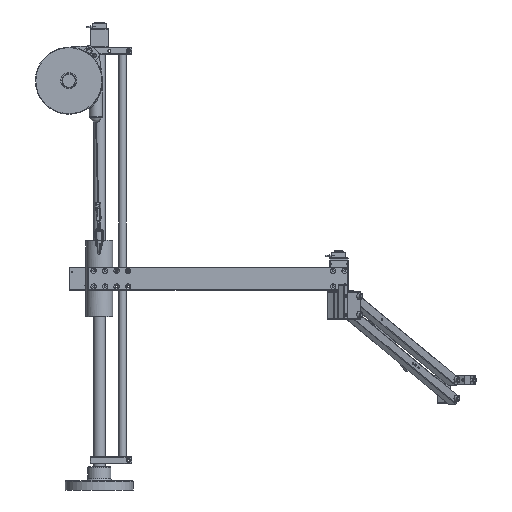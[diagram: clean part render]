
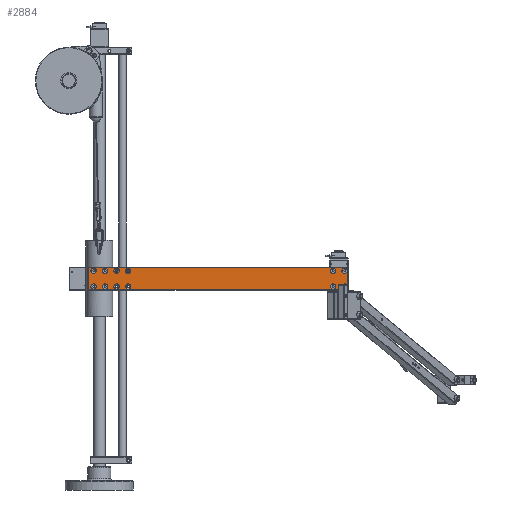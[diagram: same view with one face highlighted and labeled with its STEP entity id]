
A CAD part, left-side view. The second image highlights one B-rep face of the part: STEP entity #2884.
In plain terms, the highlighted planar face has unit normal (-1, 0, 0) as drawn and (0, 0, -1) by its records, which use the part's own axes.
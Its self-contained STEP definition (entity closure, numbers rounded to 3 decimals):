
#2884 = ADVANCED_FACE( '', ( #5816, #5817, #5818, #5819, #5820, #5821, #5822, #5823, #5824, #5825, #5826, #5827, #5828 ), #5829, .F. );
#5816 = FACE_OUTER_BOUND( '', #10247, .T. );
#5817 = FACE_BOUND( '', #10248, .T. );
#5818 = FACE_BOUND( '', #10249, .T. );
#5819 = FACE_BOUND( '', #10250, .T. );
#5820 = FACE_BOUND( '', #10251, .T. );
#5821 = FACE_BOUND( '', #10252, .T. );
#5822 = FACE_BOUND( '', #10253, .T. );
#5823 = FACE_BOUND( '', #10254, .T. );
#5824 = FACE_BOUND( '', #10255, .T. );
#5825 = FACE_BOUND( '', #10256, .T. );
#5826 = FACE_BOUND( '', #10257, .T. );
#5827 = FACE_BOUND( '', #10258, .T. );
#5828 = FACE_BOUND( '', #10259, .T. );
#5829 = PLANE( '', #10260 );
#10247 = EDGE_LOOP( '', ( #15890, #15891, #15892, #15893 ) );
#10248 = EDGE_LOOP( '', ( #15894 ) );
#10249 = EDGE_LOOP( '', ( #15895 ) );
#10250 = EDGE_LOOP( '', ( #15896 ) );
#10251 = EDGE_LOOP( '', ( #15897 ) );
#10252 = EDGE_LOOP( '', ( #15898 ) );
#10253 = EDGE_LOOP( '', ( #15899 ) );
#10254 = EDGE_LOOP( '', ( #15900 ) );
#10255 = EDGE_LOOP( '', ( #15901 ) );
#10256 = EDGE_LOOP( '', ( #15902 ) );
#10257 = EDGE_LOOP( '', ( #15903 ) );
#10258 = EDGE_LOOP( '', ( #15904 ) );
#10259 = EDGE_LOOP( '', ( #15905 ) );
#10260 = AXIS2_PLACEMENT_3D( '', #15906, #15907, #15908 );
#15890 = ORIENTED_EDGE( '', *, *, #23571, .T. );
#15891 = ORIENTED_EDGE( '', *, *, #23199, .T. );
#15892 = ORIENTED_EDGE( '', *, *, #22640, .T. );
#15893 = ORIENTED_EDGE( '', *, *, #23572, .T. );
#15894 = ORIENTED_EDGE( '', *, *, #23573, .T. );
#15895 = ORIENTED_EDGE( '', *, *, #23574, .T. );
#15896 = ORIENTED_EDGE( '', *, *, #23575, .T. );
#15897 = ORIENTED_EDGE( '', *, *, #23264, .T. );
#15898 = ORIENTED_EDGE( '', *, *, #23576, .T. );
#15899 = ORIENTED_EDGE( '', *, *, #23577, .T. );
#15900 = ORIENTED_EDGE( '', *, *, #23578, .T. );
#15901 = ORIENTED_EDGE( '', *, *, #23579, .T. );
#15902 = ORIENTED_EDGE( '', *, *, #23478, .T. );
#15903 = ORIENTED_EDGE( '', *, *, #23580, .T. );
#15904 = ORIENTED_EDGE( '', *, *, #23581, .T. );
#15905 = ORIENTED_EDGE( '', *, *, #23206, .T. );
#15906 = CARTESIAN_POINT( '', ( -71.611, 8.951, -10. ) );
#15907 = DIRECTION( '', ( 0., 0., 1. ) );
#15908 = DIRECTION( '', ( 1., 0., 0. ) );
#22640 = EDGE_CURVE( '', #28122, #28120, #28123, .T. );
#23199 = EDGE_CURVE( '', #28322, #28122, #29050, .T. );
#23206 = EDGE_CURVE( '', #29059, #29059, #29060, .T. );
#23264 = EDGE_CURVE( '', #29158, #29158, #29159, .T. );
#23478 = EDGE_CURVE( '', #29495, #29495, #29496, .T. );
#23571 = EDGE_CURVE( '', #29639, #28322, #29640, .T. );
#23572 = EDGE_CURVE( '', #28120, #29639, #29641, .T. );
#23573 = EDGE_CURVE( '', #29642, #29642, #29643, .T. );
#23574 = EDGE_CURVE( '', #29644, #29644, #29645, .T. );
#23575 = EDGE_CURVE( '', #29646, #29646, #29647, .T. );
#23576 = EDGE_CURVE( '', #29648, #29648, #29649, .T. );
#23577 = EDGE_CURVE( '', #29650, #29650, #29651, .T. );
#23578 = EDGE_CURVE( '', #29652, #29652, #29653, .T. );
#23579 = EDGE_CURVE( '', #29654, #29654, #29655, .T. );
#23580 = EDGE_CURVE( '', #29656, #29656, #29657, .T. );
#23581 = EDGE_CURVE( '', #29658, #29658, #29659, .T. );
#28120 = VERTEX_POINT( '', #33908 );
#28122 = VERTEX_POINT( '', #33911 );
#28123 = LINE( '', #33912, #33913 );
#28322 = VERTEX_POINT( '', #34384 );
#29050 = LINE( '', #35930, #35931 );
#29059 = VERTEX_POINT( '', #35944 );
#29060 = CIRCLE( '', #35945, 5.75 );
#29158 = VERTEX_POINT( '', #36066 );
#29159 = CIRCLE( '', #36067, 5.75 );
#29495 = VERTEX_POINT( '', #36677 );
#29496 = CIRCLE( '', #36678, 5.75 );
#29639 = VERTEX_POINT( '', #36905 );
#29640 = LINE( '', #36906, #36907 );
#29641 = LINE( '', #36908, #36909 );
#29642 = VERTEX_POINT( '', #36910 );
#29643 = CIRCLE( '', #36911, 5.75 );
#29644 = VERTEX_POINT( '', #36912 );
#29645 = CIRCLE( '', #36913, 5.75 );
#29646 = VERTEX_POINT( '', #36914 );
#29647 = CIRCLE( '', #36915, 5.75 );
#29648 = VERTEX_POINT( '', #36916 );
#29649 = CIRCLE( '', #36917, 5.75 );
#29650 = VERTEX_POINT( '', #36918 );
#29651 = CIRCLE( '', #36919, 5.75 );
#29652 = VERTEX_POINT( '', #36920 );
#29653 = CIRCLE( '', #36921, 5.75 );
#29654 = VERTEX_POINT( '', #36922 );
#29655 = CIRCLE( '', #36923, 5.75 );
#29656 = VERTEX_POINT( '', #36924 );
#29657 = CIRCLE( '', #36925, 5.75 );
#29658 = VERTEX_POINT( '', #36926 );
#29659 = CIRCLE( '', #36927, 5.75 );
#33908 = CARTESIAN_POINT( '', ( 492.389, 57.951, -10. ) );
#33911 = CARTESIAN_POINT( '', ( -70.611, 57.951, -10. ) );
#33912 = CARTESIAN_POINT( '', ( 493.389, 57.951, -10. ) );
#33913 = VECTOR( '', #42206, 1000. );
#34384 = CARTESIAN_POINT( '', ( -70.611, 9.951, -10. ) );
#35930 = CARTESIAN_POINT( '', ( -70.611, 58.951, -10. ) );
#35931 = VECTOR( '', #42875, 1000. );
#35944 = CARTESIAN_POINT( '', ( -64.111, 11.201, -10. ) );
#35945 = AXIS2_PLACEMENT_3D( '', #42880, #42881, #42882 );
#36066 = CARTESIAN_POINT( '', ( 430.889, 11.201, -10. ) );
#36067 = AXIS2_PLACEMENT_3D( '', #42969, #42970, #42971 );
#36677 = CARTESIAN_POINT( '', ( -39.111, 11.201, -10. ) );
#36678 = AXIS2_PLACEMENT_3D( '', #43227, #43228, #43229 );
#36905 = CARTESIAN_POINT( '', ( 492.389, 9.951, -10. ) );
#36906 = CARTESIAN_POINT( '', ( -71.611, 9.951, -10. ) );
#36907 = VECTOR( '', #43336, 1000. );
#36908 = CARTESIAN_POINT( '', ( 492.389, 8.951, -10. ) );
#36909 = VECTOR( '', #43337, 1000. );
#36910 = CARTESIAN_POINT( '', ( 405.889, 45.201, -10. ) );
#36911 = AXIS2_PLACEMENT_3D( '', #43338, #43339, #43340 );
#36912 = CARTESIAN_POINT( '', ( 405.889, 11.201, -10. ) );
#36913 = AXIS2_PLACEMENT_3D( '', #43341, #43342, #43343 );
#36914 = CARTESIAN_POINT( '', ( 430.889, 45.201, -10. ) );
#36915 = AXIS2_PLACEMENT_3D( '', #43344, #43345, #43346 );
#36916 = CARTESIAN_POINT( '', ( 455.889, 45.201, -10. ) );
#36917 = AXIS2_PLACEMENT_3D( '', #43347, #43348, #43349 );
#36918 = CARTESIAN_POINT( '', ( 455.889, 11.201, -10. ) );
#36919 = AXIS2_PLACEMENT_3D( '', #43350, #43351, #43352 );
#36920 = CARTESIAN_POINT( '', ( 480.889, 45.201, -10. ) );
#36921 = AXIS2_PLACEMENT_3D( '', #43353, #43354, #43355 );
#36922 = CARTESIAN_POINT( '', ( 480.889, 11.201, -10. ) );
#36923 = AXIS2_PLACEMENT_3D( '', #43356, #43357, #43358 );
#36924 = CARTESIAN_POINT( '', ( -39.111, 45.201, -10. ) );
#36925 = AXIS2_PLACEMENT_3D( '', #43359, #43360, #43361 );
#36926 = CARTESIAN_POINT( '', ( -64.111, 45.201, -10. ) );
#36927 = AXIS2_PLACEMENT_3D( '', #43362, #43363, #43364 );
#42206 = DIRECTION( '', ( 1., 0., 0. ) );
#42875 = DIRECTION( '', ( 0., 1., 0. ) );
#42880 = CARTESIAN_POINT( '', ( -64.111, 16.951, -10. ) );
#42881 = DIRECTION( '', ( 0., 0., 1. ) );
#42882 = DIRECTION( '', ( 0., -1., 0. ) );
#42969 = CARTESIAN_POINT( '', ( 430.889, 16.951, -10. ) );
#42970 = DIRECTION( '', ( 0., 0., 1. ) );
#42971 = DIRECTION( '', ( 0., -1., 0. ) );
#43227 = CARTESIAN_POINT( '', ( -39.111, 16.951, -10. ) );
#43228 = DIRECTION( '', ( 0., 0., 1. ) );
#43229 = DIRECTION( '', ( 0., -1., 0. ) );
#43336 = DIRECTION( '', ( -1., 0., 0. ) );
#43337 = DIRECTION( '', ( 0., -1., 0. ) );
#43338 = CARTESIAN_POINT( '', ( 405.889, 50.951, -10. ) );
#43339 = DIRECTION( '', ( 0., 0., 1. ) );
#43340 = DIRECTION( '', ( 0., -1., 0. ) );
#43341 = CARTESIAN_POINT( '', ( 405.889, 16.951, -10. ) );
#43342 = DIRECTION( '', ( 0., 0., 1. ) );
#43343 = DIRECTION( '', ( 0., -1., 0. ) );
#43344 = CARTESIAN_POINT( '', ( 430.889, 50.951, -10. ) );
#43345 = DIRECTION( '', ( 0., 0., 1. ) );
#43346 = DIRECTION( '', ( 0., -1., 0. ) );
#43347 = CARTESIAN_POINT( '', ( 455.889, 50.951, -10. ) );
#43348 = DIRECTION( '', ( 0., 0., 1. ) );
#43349 = DIRECTION( '', ( 0., -1., 0. ) );
#43350 = CARTESIAN_POINT( '', ( 455.889, 16.951, -10. ) );
#43351 = DIRECTION( '', ( 0., 0., 1. ) );
#43352 = DIRECTION( '', ( 0., -1., 0. ) );
#43353 = CARTESIAN_POINT( '', ( 480.889, 50.951, -10. ) );
#43354 = DIRECTION( '', ( 0., 0., 1. ) );
#43355 = DIRECTION( '', ( 0., -1., 0. ) );
#43356 = CARTESIAN_POINT( '', ( 480.889, 16.951, -10. ) );
#43357 = DIRECTION( '', ( 0., 0., 1. ) );
#43358 = DIRECTION( '', ( 0., -1., 0. ) );
#43359 = CARTESIAN_POINT( '', ( -39.111, 50.951, -10. ) );
#43360 = DIRECTION( '', ( 0., 0., 1. ) );
#43361 = DIRECTION( '', ( 0., -1., 0. ) );
#43362 = CARTESIAN_POINT( '', ( -64.111, 50.951, -10. ) );
#43363 = DIRECTION( '', ( 0., 0., 1. ) );
#43364 = DIRECTION( '', ( 0., -1., 0. ) );
